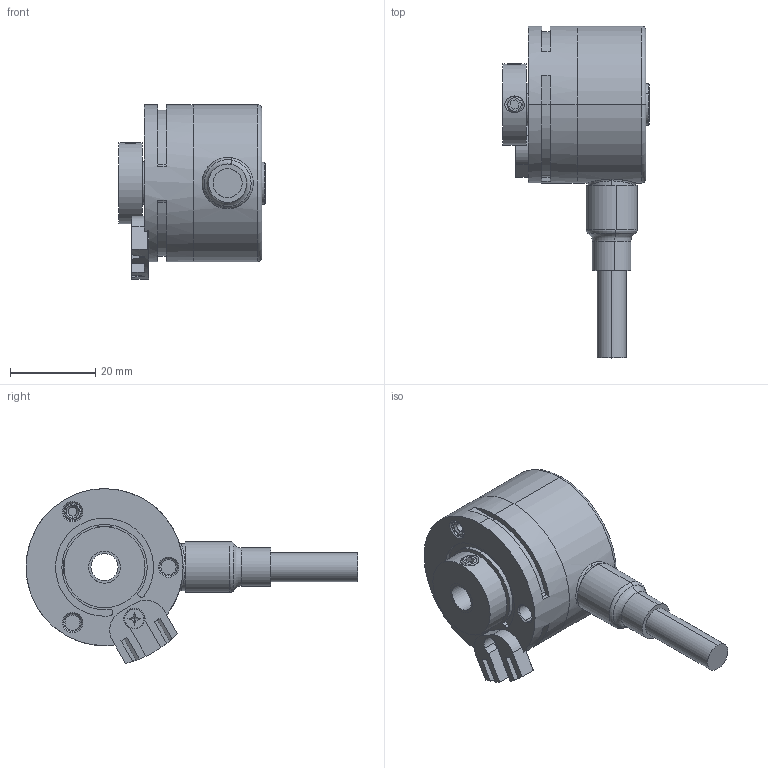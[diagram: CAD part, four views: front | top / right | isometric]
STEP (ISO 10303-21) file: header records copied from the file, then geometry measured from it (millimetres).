
FILE_DESCRIPTION (( 'STEP AP214' ), '1' );
FILE_NAME ('3720.14X1.XXXX.STEP', '2008-11-27T10:44:52', ( 'admin' ), ( 'Fritz Kübler GmbH' ), 'SwSTEP 2.0', 'SolidWorks 2008', '' );
FILE_SCHEMA (( 'AUTOMOTIVE_DESIGN' ));
Length unit declared in the file: millimetre
Products named in the file (1): 3720.14X1.XXXX
Bounding box: 34.3 x 77.8 x 40.95 mm (x, y, z)
Volume: 16504.8 mm3; surface area: 19263.6 mm2
Topology: 12 solids, 12 shells, 761 faces, 1870 edges, 1155 vertices
Faces by surface type: cylinder 279, plane 232, torus 90, bspline 77, cone 58, sphere 25
Entity records: 33684 total; most frequent: CARTESIAN_POINT 7766, DIRECTION 3734, ORIENTED_EDGE 3694, EDGE_CURVE 1847, AXIS2_PLACEMENT_3D 1537, VERTEX_POINT 1145, CIRCLE 852, EDGE_LOOP 818
